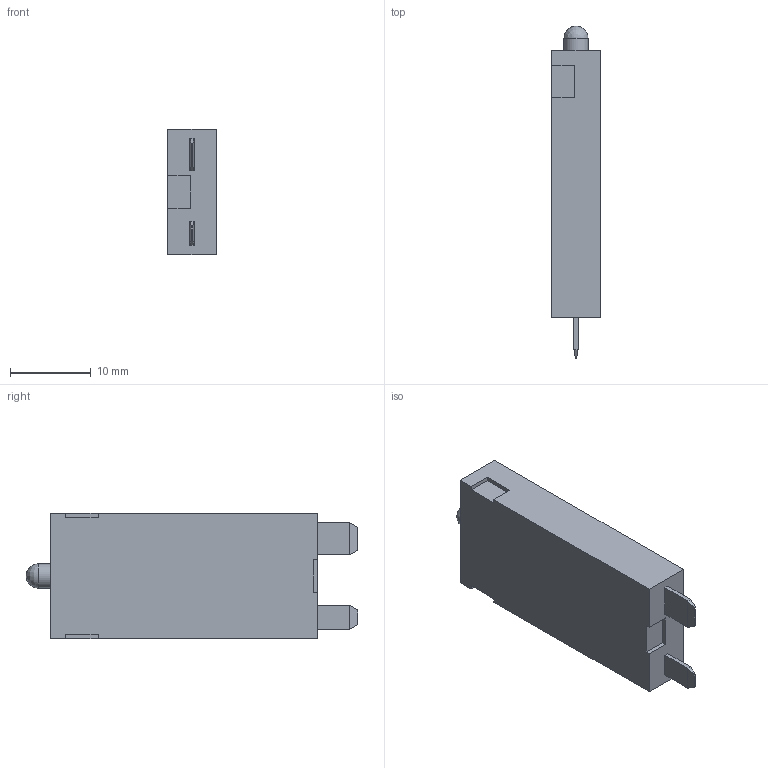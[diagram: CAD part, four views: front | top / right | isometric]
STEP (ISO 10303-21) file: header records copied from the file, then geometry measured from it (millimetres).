
FILE_DESCRIPTION(('STEP AP214'),'2;1');
FILE_NAME('99.01 con led-catalogo.stp','2010-11-30T11:22:42',(''),(''),'2007.1.106','THINKDESIGN','');
FILE_SCHEMA(('AUTOMOTIVE_DESIGN'));
Length unit declared in the file: millimetre
Products named in the file (1): None
Bounding box: 6 x 41 x 15.5 mm (x, y, z)
Surface area: 1709.5 mm2 (no closed solid volume)
Topology: 0 solids, 0 shells, 38 faces, 192 edges, 190 vertices
Faces by surface type: plane 36, bspline 1, cylinder 1
Full cylindrical faces by diameter (mm): 3 x1
Entity records: 1976 total; most frequent: CARTESIAN_POINT 458, DIRECTION 264, COMPOSITE_CURVE_SEGMENT 190, TRIMMED_CURVE 184, VECTOR 178, LINE 178, AXIS2_PLACEMENT_3D 43, OUTER_BOUNDARY_CURVE 38
